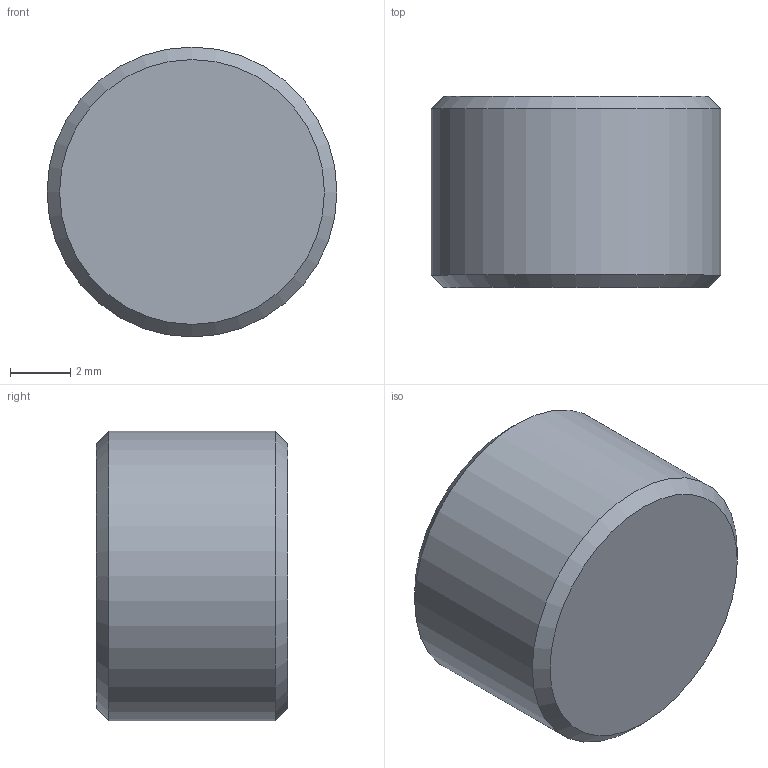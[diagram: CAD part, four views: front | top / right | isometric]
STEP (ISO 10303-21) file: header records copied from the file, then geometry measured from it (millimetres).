
FILE_DESCRIPTION(/* description */ (''),/* implementation_level */ '2;1');
FILE_NAME(/* name */ 'C:/Users/drich/Desktop/BF-18 v1.step',/* time_stamp */ '2020-01-08T20:43:12-06:00',/* author */ (''),/* organization */ (''),/* preprocessor_version */ 'ST-DEVELOPER v18',/* originating_system */ 'Autodesk Translation Framework v8.12.0.6',/* authorisation */ '');
FILE_SCHEMA (('AUTOMOTIVE_DESIGN { 1 0 10303 214 3 1 1 }'));
Length unit declared in the file: inch
Products named in the file (1): BF-18
Bounding box: 9.62 x 6.35 x 9.62 mm (x, y, z)
Volume: 378.4 mm3; surface area: 384.7 mm2
Topology: 1 solids, 1 shells, 13 faces, 35 edges, 25 vertices
Faces by surface type: plane 9, cone 3, cylinder 1
Full cylindrical faces by diameter (mm): 9.621 x1
Entity records: 446 total; most frequent: CARTESIAN_POINT 98, ORIENTED_EDGE 70, DIRECTION 58, EDGE_CURVE 35, VERTEX_POINT 25, AXIS2_PLACEMENT_3D 21, LINE 16, VECTOR 16
